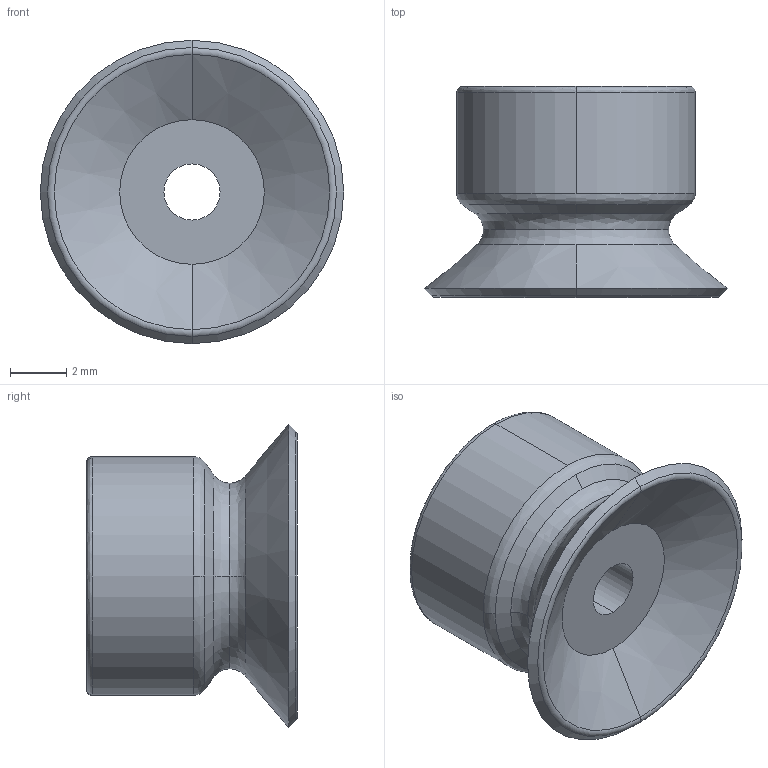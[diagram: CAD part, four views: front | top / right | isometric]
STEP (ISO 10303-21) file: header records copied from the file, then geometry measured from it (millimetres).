
FILE_DESCRIPTION (( 'STEP AP214' ), '1' );
FILE_NAME ('VS-PG10.STEP', '2019-11-13T07:44:17', ( '微软用户' ), ( '微软中国' ), 'SwSTEP 2.0', 'SolidWorks 2016', '' );
FILE_SCHEMA (( 'AUTOMOTIVE_DESIGN' ));
Length unit declared in the file: millimetre
Products named in the file (1): VS-PG10
Bounding box: 10.79 x 7.5 x 10.79 mm (x, y, z)
Volume: 265.9 mm3; surface area: 477.9 mm2
Topology: 1 solids, 1 shells, 36 faces, 84 edges, 52 vertices
Faces by surface type: bspline 14, cone 8, cylinder 8, plane 4, torus 2
Entity records: 1542 total; most frequent: CARTESIAN_POINT 757, ORIENTED_EDGE 168, DIRECTION 154, EDGE_CURVE 84, AXIS2_PLACEMENT_3D 69, VERTEX_POINT 52, CIRCLE 46, EDGE_LOOP 40
